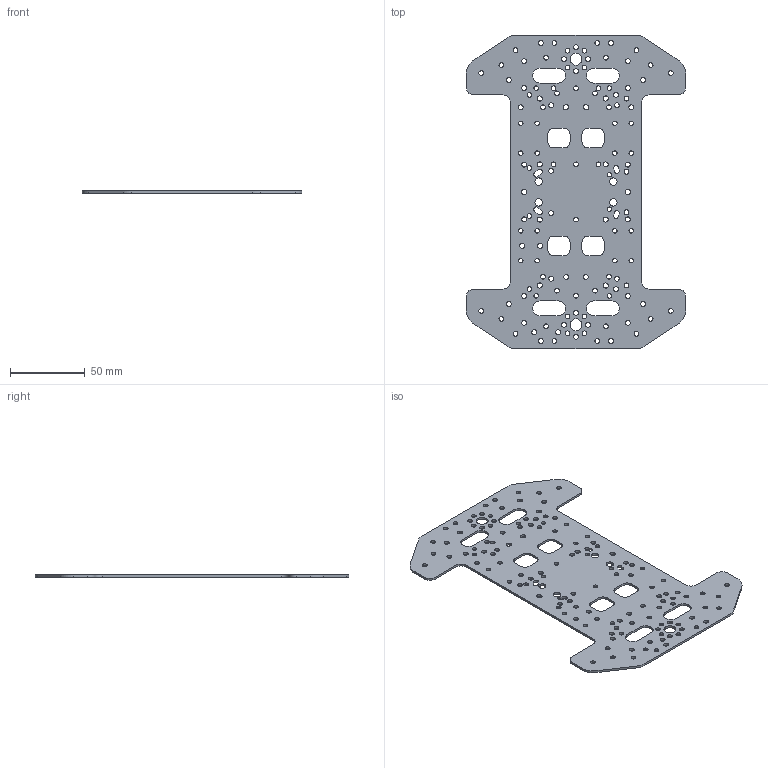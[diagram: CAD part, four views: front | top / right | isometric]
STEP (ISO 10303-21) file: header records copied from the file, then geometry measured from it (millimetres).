
FILE_DESCRIPTION(('FreeCAD Model'),'2;1');
FILE_NAME('Open CASCADE Shape Model','2026-11-03T14:23:12',('FreeCAD'),( 'FreeCAD'),'Open CASCADE STEP processor 7.8','FreeCAD','Unknown');
FILE_SCHEMA(('AUTOMOTIVE_DESIGN { 1 0 10303 214 1 1 1 1 }'));
Length unit declared in the file: millimetre
Products named in the file (1): Open CASCADE STEP translator 7.8 20
Bounding box: 147 x 210 x 1.5 mm (x, y, z)
Volume: 28759 mm3; surface area: 42322.9 mm2
Topology: 1 solids, 1 shells, 272 faces, 810 edges, 540 vertices
Faces by surface type: cylinder 198, plane 74
Full cylindrical faces by diameter (mm): 3 x22, 3.2 x90, 3.4 x4, 5 x4, 8 x2
Entity records: 9932 total; most frequent: DIRECTION 1752, CARTESIAN_POINT 1623, ORIENTED_EDGE 1620, EDGE_CURVE 810, AXIS2_PLACEMENT_3D 669, FACE_BOUND 568, EDGE_LOOP 568, VERTEX_POINT 540
